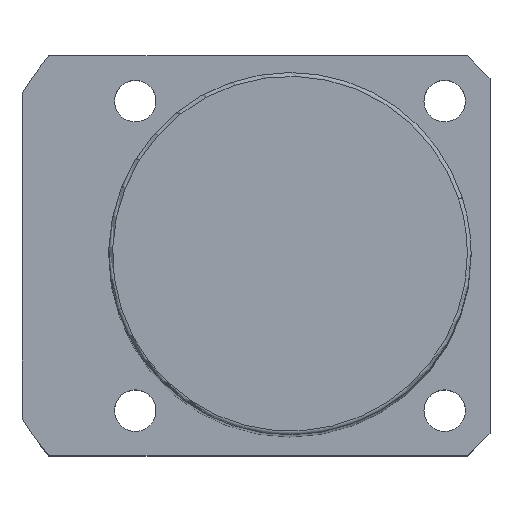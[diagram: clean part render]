
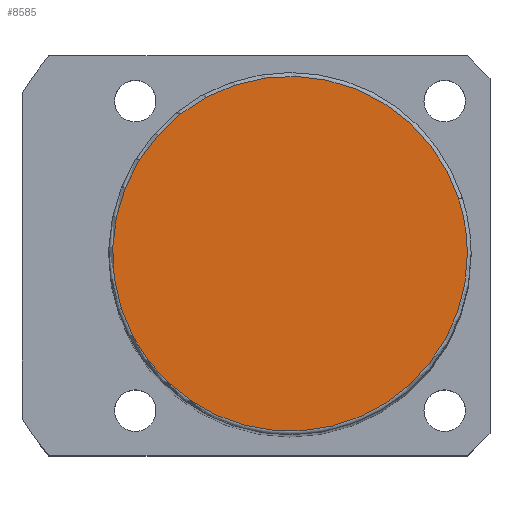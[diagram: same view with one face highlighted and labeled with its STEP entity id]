
A CAD part, top view. The second image highlights one B-rep face of the part: STEP entity #8585.
In plain terms, the highlighted planar face has unit normal (0, 0, 1).
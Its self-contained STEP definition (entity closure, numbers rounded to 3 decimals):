
#8551=CARTESIAN_POINT('',(23.5,0.0,174.0));
#8552=VERTEX_POINT('',#8551);
#8553=CARTESIAN_POINT('',(22.35,7.262,174.0));
#8554=VERTEX_POINT('',#8553);
#8555=CARTESIAN_POINT('',(0.0,0.0,174.0));
#8556=DIRECTION('',(0.0,0.0,1.0));
#8557=DIRECTION('',(1.0,0.0,0.0));
#8558=AXIS2_PLACEMENT_3D('',#8555,#8556,#8557);
#8559=CIRCLE('',#8558,23.5);
#8560=EDGE_CURVE('no 4116',#8552,#8554,#8559,.T.);
#8561=ORIENTED_EDGE('',*,*,#8560,.T.);
#8562=CARTESIAN_POINT('',(-22.35,-7.262,174.0));
#8563=VERTEX_POINT('',#8562);
#8564=CARTESIAN_POINT('',(0.0,0.0,174.0));
#8565=DIRECTION('',(0.0,0.0,1.0));
#8566=DIRECTION('',(1.0,0.0,0.0));
#8567=AXIS2_PLACEMENT_3D('',#8564,#8565,#8566);
#8568=CIRCLE('',#8567,23.5);
#8569=EDGE_CURVE('no 4122',#8554,#8563,#8568,.T.);
#8570=ORIENTED_EDGE('',*,*,#8569,.T.);
#8571=CARTESIAN_POINT('',(0.0,0.0,174.0));
#8572=DIRECTION('',(0.0,0.0,1.0));
#8573=DIRECTION('',(1.0,0.0,0.0));
#8574=AXIS2_PLACEMENT_3D('',#8571,#8572,#8573);
#8575=CIRCLE('',#8574,23.5);
#8576=EDGE_CURVE('no 4126',#8563,#8552,#8575,.T.);
#8577=ORIENTED_EDGE('',*,*,#8576,.T.);
#8578=EDGE_LOOP('',(#8561,#8570,#8577));
#8579=FACE_OUTER_BOUND('',#8578,.T.);
#8580=CARTESIAN_POINT('',(0.0,0.0,174.0));
#8581=DIRECTION('',(0.0,0.0,1.0));
#8582=DIRECTION('',(1.0,0.0,0.0));
#8583=AXIS2_PLACEMENT_3D('',#8580,#8581,#8582);
#8584=PLANE('',#8583);
#8585=ADVANCED_FACE('no 4107',(#8579),#8584,.T.);
